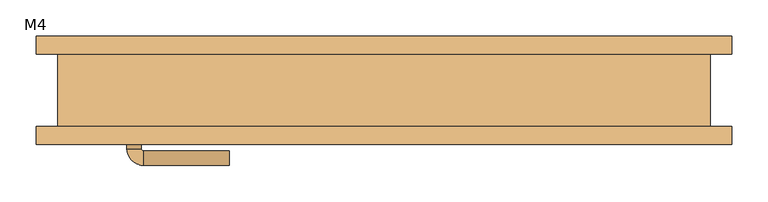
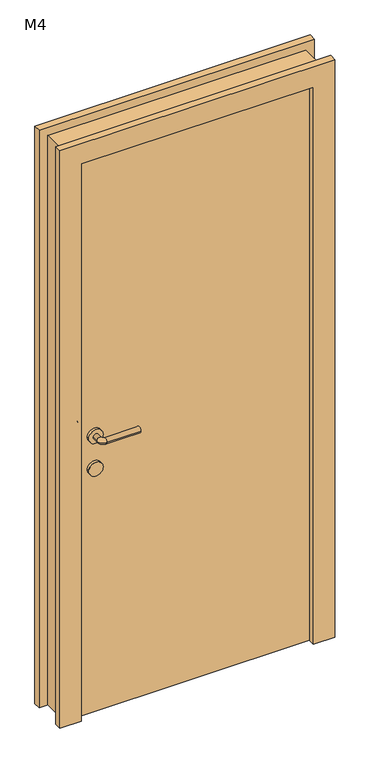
"""IFC4 building model written with IfcOpenShell, lengths in millimetres: door geometry, 单嵌板木门 1 : M4."""

from ifc_helpers import new_model, si_unit, point, frame, frame_2d, origin, origin_with_axes, place, context, project, spatial, polyline, circle_curve, ellipse_curve, trimmed, segment, composite_curve, outline, extrude, source, transform, mapped, element, save
from ifc_brep_helpers import plane_surface, cylinder_surface, revolved_surface, advanced_brep


def m4_12d08f6f(model_context):
    return source(origin(), model_context, "Body", "SolidModel", [
        extrude(outline(composite_curve([segment(trimmed(circle_curve(frame_2d((900.0, -345.0)), 25.0), [point((900.0, -320.0))], [point((900.0, -370.0))], False, "CARTESIAN"), True, "CONTINUOUS"), segment(trimmed(circle_curve(frame_2d((900.0, -345.0)), 25.0), [point((900.0, -370.0))], [point((900.0, -320.0))], False, "CARTESIAN"), True, "CONTINUOUS")], self_intersect=False)), frame((0.0, 0.0, 0.0), z_axis=(0.0, 1.0, 0.0), x_axis=(0.0, 0.0, 1.0)), (0.0, 0.0, 1.0), 10.0),
        extrude(outline(composite_curve([segment(trimmed(circle_curve(frame_2d((900.0, -345.0)), 25.0), [point((900.0, -320.0))], [point((900.0, -370.0))], False, "CARTESIAN"), True, "CONTINUOUS"), segment(trimmed(circle_curve(frame_2d((900.0, -345.0)), 25.0), [point((900.0, -370.0))], [point((900.0, -320.0))], False, "CARTESIAN"), True, "CONTINUOUS")], self_intersect=False)), frame((0.0, -60.0, 0.0), z_axis=(0.0, 1.0, 0.0), x_axis=(0.0, 0.0, 1.0)), (0.0, 0.0, 1.0), 10.0),
        advanced_brep(
        [(-355.0, 10.0, 1020.0), (-335.0, 10.0, 1020.0), (-355.0, 30.613355, 1020.0), (-335.0, 30.613355, 1020.0), (-213.419036, 53.580964, 1020.0), (-213.419036, 33.580964, 1020.0), (-332.0323911, 33.580964, 1020.0), (-332.0323911, 53.580964, 1020.0)],
        [
            (0, 1, circle_curve(frame((-345.0, 10.0, 1020.0), z_axis=(0.0, -1.0, 0.0), x_axis=(1.0, 0.0, 0.0)), 10.0)),
            (1, 0, circle_curve(frame((-345.0, 10.0, 1020.0), z_axis=(0.0, -1.0, 0.0), x_axis=(1.0, 0.0, 0.0)), 10.0)),
            (0, 2),
            (2, 3, circle_curve(frame((-345.0, 30.613355, 1020.0), z_axis=(0.0, -1.0, 0.0), x_axis=(1.0, 0.0, 0.0)), 10.0)),
            (3, 1),
            (3, 2, circle_curve(frame((-345.0, 30.613355, 1020.0), z_axis=(0.0, -1.0, 0.0), x_axis=(1.0, 0.0, 0.0)), 10.0)),
            (4, 5, circle_curve(frame((-213.419036, 43.580964, 1020.0), z_axis=(1.0, 0.0, 0.0), x_axis=(0.0, -1.0, 0.0)), 10.0)),
            (5, 4, circle_curve(frame((-213.419036, 43.580964, 1020.0), z_axis=(1.0, 0.0, 0.0), x_axis=(0.0, -1.0, 0.0)), 10.0)),
            (6, 7, circle_curve(frame((-332.0323911, 43.580964, 1020.0), z_axis=(-1.0, 0.0, 0.0), x_axis=(0.0, -1.0, 0.0)), 10.0)),
            (7, 2, circle_curve(frame((-332.0323911, 30.613355, 1020.0), z_axis=(0.0, 0.0, 1.0), x_axis=(-1.0, 0.0, 0.0)), 22.9676089)),
            (3, 6, circle_curve(frame((-332.0323911, 30.613355, 1020.0), z_axis=(0.0, 0.0, -1.0), x_axis=(-1.0, 0.0, 0.0)), 2.9676089)),
            (7, 6, circle_curve(frame((-332.0323911, 43.580964, 1020.0), z_axis=(-1.0, 0.0, 0.0), x_axis=(0.0, -1.0, 0.0)), 10.0)),
            (6, 5),
            (4, 7),
        ],
        [
            plane_surface(frame((-345.0, 10.0, 900.0), z_axis=(0.0, -1.0, 0.0), x_axis=(0.0, 0.0, 1.0))),
            cylinder_surface(frame((-345.0, 10.0, 1020.0), z_axis=(0.0, -1.0, 0.0), x_axis=(1.0, 0.0, 0.0)), 10.0),
            plane_surface(frame((-213.419036, 43.580964, 900.0), z_axis=(1.0, 0.0, 0.0), x_axis=(0.0, 0.0, 1.0))),
            revolved_surface(trimmed(ellipse_curve(frame((-345.0, 30.613355, 1020.0), z_axis=(0.0, 1.0, 0.0), x_axis=(1.0, 0.0, 0.0)), 10.0, 10.0), [point((-355.0, 30.613355, 1020.0))], [point((-335.0, 30.613355, 1020.0))], True, "CARTESIAN"), (-332.0323911, 30.613355, 900.0), (0.0, 0.0, 1.0)),
            revolved_surface(trimmed(ellipse_curve(frame((-345.0, 30.613355, 1020.0), z_axis=(0.0, 1.0, 0.0), x_axis=(1.0, 0.0, 0.0)), 10.0, 10.0), [point((-335.0, 30.613355, 1020.0))], [point((-355.0, 30.613355, 1020.0))], True, "CARTESIAN"), (-332.0323911, 30.613355, 900.0), (0.0, 0.0, 1.0)),
            cylinder_surface(frame((-332.0323911, 43.580964, 1020.0), z_axis=(-1.0, 0.0, 0.0), x_axis=(0.0, -1.0, 0.0)), 10.0),
        ],
        [
            (0, [[1, 2]]),
            (1, [[3, 4, 5, -1]]),
            (1, [[-5, 6, -3, -2]]),
            (2, [[7, 8]]),
            (3, [[9, 10, -6, 11]]),
            (4, [[12, -11, -4, -10]]),
            (5, [[13, -7, 14, -9]]),
            (5, [[-14, -8, -13, -12]]),
        ],
    ),
        extrude(outline(composite_curve([segment(trimmed(circle_curve(frame_2d((1020.0, -345.0)), 25.0), [point((1020.0, -320.0))], [point((1020.0, -370.0))], False, "CARTESIAN"), True, "CONTINUOUS"), segment(trimmed(circle_curve(frame_2d((1020.0, -345.0)), 25.0), [point((1020.0, -370.0))], [point((1020.0, -320.0))], False, "CARTESIAN"), True, "CONTINUOUS")], self_intersect=False)), frame((0.0, 0.0, 0.0), z_axis=(0.0, 1.0, 0.0), x_axis=(0.0, 0.0, 1.0)), (0.0, 0.0, 1.0), 10.0),
        advanced_brep(
        [(-335.0, -60.0, 1020.0), (-355.0, -60.0, 1020.0), (-355.0, -80.6133551, 1020.0), (-335.0, -80.6133551, 1020.0), (-213.419036, -83.580964, 1020.0), (-213.419036, -103.580964, 1020.0), (-332.0323911, -103.580964, 1020.0), (-332.0323911, -83.580964, 1020.0)],
        [
            (0, 1, circle_curve(frame((-345.0, -60.0, 1020.0), z_axis=(0.0, 1.0, 0.0), x_axis=(-1.0, 0.0, 0.0)), 10.0)),
            (1, 0, circle_curve(frame((-345.0, -60.0, 1020.0), z_axis=(0.0, 1.0, 0.0), x_axis=(-1.0, 0.0, 0.0)), 10.0)),
            (1, 2),
            (2, 3, circle_curve(frame((-345.0, -80.6133551, 1020.0), z_axis=(0.0, 1.0, 0.0), x_axis=(-1.0, 0.0, 0.0)), 10.0)),
            (3, 0),
            (3, 2, circle_curve(frame((-345.0, -80.6133551, 1020.0), z_axis=(0.0, 1.0, 0.0), x_axis=(-1.0, 0.0, 0.0)), 10.0)),
            (4, 5, circle_curve(frame((-213.419036, -93.580964, 1020.0), z_axis=(1.0, 0.0, 0.0), x_axis=(0.0, -1.0, 0.0)), 10.0)),
            (5, 4, circle_curve(frame((-213.419036, -93.580964, 1020.0), z_axis=(1.0, 0.0, 0.0), x_axis=(0.0, -1.0, 0.0)), 10.0)),
            (6, 7, circle_curve(frame((-332.0323911, -93.580964, 1020.0), z_axis=(-1.0, 0.0, 0.0), x_axis=(0.0, -1.0, 0.0)), 10.0)),
            (7, 3, circle_curve(frame((-332.0323911, -80.6133551, 1020.0), z_axis=(0.0, 0.0, -1.0), x_axis=(-1.0, 0.0, 0.0)), 2.9676089)),
            (2, 6, circle_curve(frame((-332.0323911, -80.6133551, 1020.0), z_axis=(0.0, 0.0, 1.0), x_axis=(-1.0, 0.0, 0.0)), 22.9676089)),
            (7, 6, circle_curve(frame((-332.0323911, -93.580964, 1020.0), z_axis=(-1.0, 0.0, 0.0), x_axis=(0.0, -1.0, 0.0)), 10.0)),
            (6, 5),
            (4, 7),
        ],
        [
            plane_surface(frame((-345.0, -60.0, 900.0), z_axis=(0.0, 1.0, 0.0), x_axis=(0.0, 0.0, 1.0))),
            cylinder_surface(frame((-345.0, -60.0, 1020.0), z_axis=(0.0, 1.0, 0.0), x_axis=(-1.0, 0.0, 0.0)), 10.0),
            plane_surface(frame((-213.419036, -93.580964, 900.0), z_axis=(1.0, 0.0, 0.0), x_axis=(0.0, 0.0, 1.0))),
            revolved_surface(trimmed(ellipse_curve(frame((-345.0, -80.6133551, 1020.0), z_axis=(0.0, -1.0, 0.0), x_axis=(-1.0, 0.0, 0.0)), 10.0, 10.0), [point((-335.0, -80.6133551, 1020.0))], [point((-355.0, -80.6133551, 1020.0))], True, "CARTESIAN"), (-332.0323911, -80.6133551, 900.0), (0.0, 0.0, -1.0)),
            revolved_surface(trimmed(ellipse_curve(frame((-345.0, -80.6133551, 1020.0), z_axis=(0.0, -1.0, 0.0), x_axis=(-1.0, 0.0, 0.0)), 10.0, 10.0), [point((-355.0, -80.6133551, 1020.0))], [point((-335.0, -80.6133551, 1020.0))], True, "CARTESIAN"), (-332.0323911, -80.6133551, 900.0), (0.0, 0.0, -1.0)),
            cylinder_surface(frame((-332.0323911, -93.580964, 1020.0), z_axis=(-1.0, 0.0, 0.0), x_axis=(0.0, -1.0, 0.0)), 10.0),
        ],
        [
            (0, [[1, 2]]),
            (1, [[3, 4, 5, -2]]),
            (1, [[-5, 6, -3, -1]]),
            (2, [[7, 8]]),
            (3, [[9, 10, -4, 11]]),
            (4, [[12, -11, -6, -10]]),
            (5, [[13, -7, 14, -9]]),
            (5, [[-14, -8, -13, -12]]),
        ],
    ),
        extrude(outline(composite_curve([segment(trimmed(circle_curve(frame_2d((1020.0, -345.0)), 25.0), [point((1020.0, -320.0))], [point((1020.0, -370.0))], False, "CARTESIAN"), True, "CONTINUOUS"), segment(trimmed(circle_curve(frame_2d((1020.0, -345.0)), 25.0), [point((1020.0, -370.0))], [point((1020.0, -320.0))], False, "CARTESIAN"), True, "CONTINUOUS")], self_intersect=False)), frame((0.0, -60.0, 0.0), z_axis=(0.0, 1.0, 0.0), x_axis=(0.0, 0.0, 1.0)), (0.0, 0.0, 1.0), 10.0),
        extrude(outline(polyline([(0.0, 480.0), (2130.0, 480.0), (2130.0, -480.0), (0.0, -480.0), (0.0, -405.0), (2055.0, -405.0), (2055.0, 405.0), (0.0, 405.0), (0.0, 480.0)])), frame((0.0, -75.0, 0.0), z_axis=(0.0, 1.0, 0.0), x_axis=(0.0, 0.0, 1.0)), (0.0, 0.0, 1.0), 25.0),
        extrude(outline(polyline([(2130.0, 480.0), (2130.0, -480.0), (0.0, -480.0), (0.0, -405.0), (2055.0, -405.0), (2055.0, 405.0), (0.0, 405.0), (0.0, 480.0), (2130.0, 480.0)])), frame((0.0, 50.0, 0.0), z_axis=(0.0, 1.0, 0.0), x_axis=(0.0, 0.0, 1.0)), (0.0, 0.0, 1.0), 25.0),
        extrude(outline(polyline([(405.0, 0.0), (405.0, -50.0), (-405.0, -50.0), (-405.0, 0.0), (405.0, 0.0)])), origin_with_axes(), (0.0, 0.0, 1.0), 2055.0),
        extrude(outline(polyline([(2100.0, -450.0), (0.0, -450.0), (0.0, -405.0), (2055.0, -405.0), (2055.0, 405.0), (0.0, 405.0), (0.0, 450.0), (2100.0, 450.0), (2100.0, -450.0)])), frame((0.0, -50.0, 0.0), z_axis=(0.0, 1.0, 0.0), x_axis=(0.0, 0.0, 1.0)), (0.0, 0.0, 1.0), 100.0),
    ])


if __name__ == "__main__":
    model = new_model("IFC4")
    model_context = context("Model", 3, world=origin())
    ifc_project = project(units=[si_unit("LENGTHUNIT", "METRE", prefix="MILLI")], contexts=[model_context])
    site = spatial("IfcSite", under=ifc_project)
    building = spatial("IfcBuilding", under=site)
    placement = place(None, origin())
    m4_shape = m4_12d08f6f(model_context)
    element("IfcDoor", 1, ObjectType="单嵌板木门 1 : M4", at=placement, inside=building, context=model_context, shape_type="MappedRepresentation", body=[
        mapped(m4_shape, transform((0.0, 0.0, 0.0), x_axis=(1.0, 0.0, 0.0), y_axis=(0.0, 1.0, 0.0), z_axis=(0.0, 0.0, 1.0))),
    ])
    save(model, "model.ifc")
